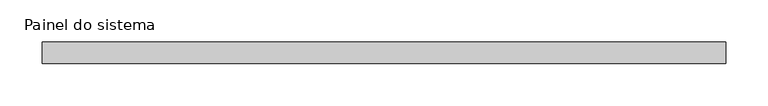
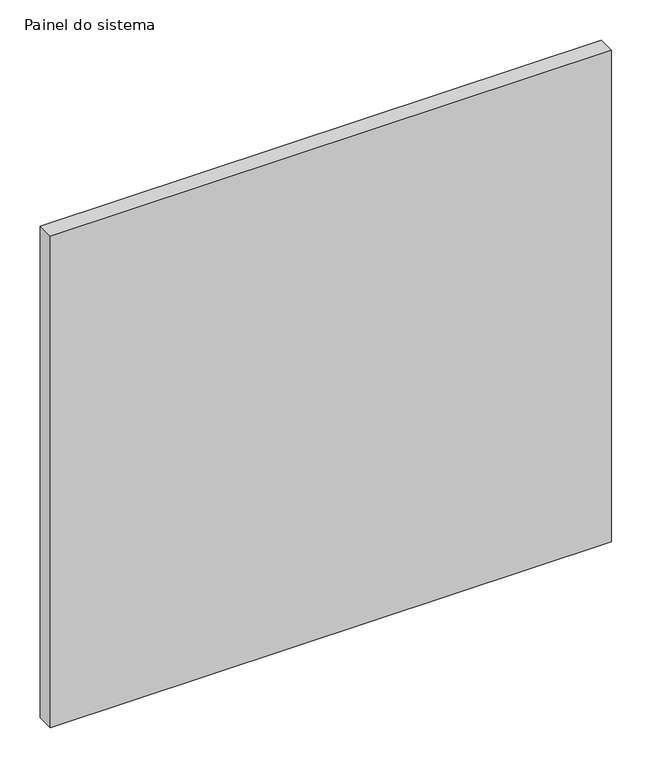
"""IFC4 building model written with IfcOpenShell, lengths in millimetres: plate geometry, Painel do sistema : Envidraçado."""

from ifc_helpers import new_model, si_unit, origin, origin_with_axes, place, context, project, spatial, polyline, outline, extrude, source, transform, mapped, element, save


def painel_do_sistema_a7b66658(model_context):
    return source(origin(), model_context, "Body", "SweptSolid", [
        extrude(outline(polyline([(402.5, 24.5), (-402.5, 24.5), (-402.5, 49.5), (402.5, 49.5), (402.5, 24.5)])), origin_with_axes(), (0.0, 0.0, 1.0), 745.0),
    ])


if __name__ == "__main__":
    model = new_model("IFC4")
    model_context = context("Model", 3, world=origin())
    ifc_project = project(units=[si_unit("LENGTHUNIT", "METRE", prefix="MILLI")], contexts=[model_context])
    site = spatial("IfcSite", under=ifc_project)
    building = spatial("IfcBuilding", under=site)
    placement = place(None, origin())
    painel_do_sistema_shape = painel_do_sistema_a7b66658(model_context)
    element("IfcPlate", 1, ObjectType="Painel do sistema : Envidraçado", at=placement, inside=building, context=model_context, shape_type="MappedRepresentation", body=[
        mapped(painel_do_sistema_shape, transform((0.0, 0.0, 0.0), x_axis=(1.0, 0.0, 0.0), y_axis=(0.0, 1.0, 0.0), z_axis=(0.0, 0.0, 1.0))),
    ])
    save(model, "model.ifc")
